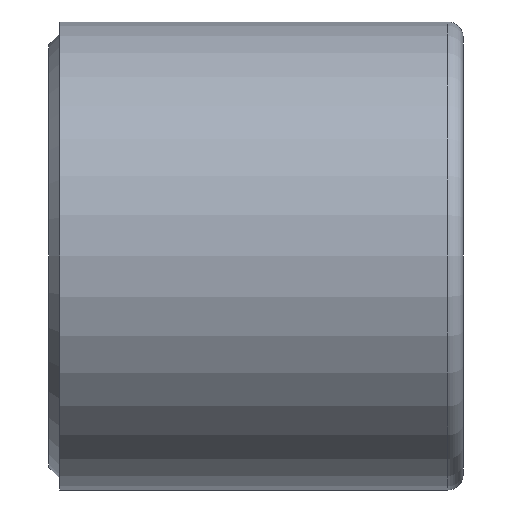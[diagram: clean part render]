
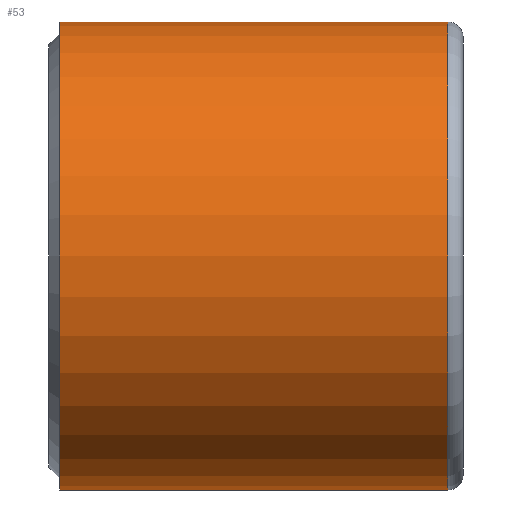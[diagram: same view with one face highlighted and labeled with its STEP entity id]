
A CAD part, front view. The second image highlights one B-rep face of the part: STEP entity #53.
In plain terms, the highlighted cylindrical face has radius 28.892 mm (diameter 57.785 mm), a partial arc.
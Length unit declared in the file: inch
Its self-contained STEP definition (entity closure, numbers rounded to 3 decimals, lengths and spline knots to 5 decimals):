
#3 = VERTEX_POINT ( 'NONE', #87 ) ;
#53 = ADVANCED_FACE ( 'NONE', ( #54 ), #925, .T. ) ;
#54 = FACE_OUTER_BOUND ( 'NONE', #763, .T. ) ;
#64 = EDGE_CURVE ( 'NONE', #462, #253, #797, .T. ) ;
#72 = ORIENTED_EDGE ( 'NONE', *, *, #915, .F. ) ;
#78 = ORIENTED_EDGE ( 'NONE', *, *, #465, .F. ) ;
#87 = CARTESIAN_POINT ( 'NONE',  ( 0.05274, 0., 1.1375 ) ) ;
#100 = CARTESIAN_POINT ( 'NONE',  ( 1.93924, 0., 1.1375 ) ) ;
#137 = VECTOR ( 'NONE', #767, 39.37008 ) ;
#180 = CARTESIAN_POINT ( 'NONE',  ( 0.05274, 0., -1.1375 ) ) ;
#207 = CARTESIAN_POINT ( 'NONE',  ( 0., 0., 0. ) ) ;
#232 = AXIS2_PLACEMENT_3D ( 'NONE', #563, #412, #696 ) ;
#253 = VERTEX_POINT ( 'NONE', #100 ) ;
#317 = DIRECTION ( 'NONE',  ( -1., 0., 0. ) ) ;
#412 = DIRECTION ( 'NONE',  ( -1., 0., 0. ) ) ;
#418 = CIRCLE ( 'NONE', #599, 1.1375 ) ;
#448 = ORIENTED_EDGE ( 'NONE', *, *, #64, .T. ) ;
#462 = VERTEX_POINT ( 'NONE', #849 ) ;
#465 = EDGE_CURVE ( 'NONE', #462, #513, #552, .T. ) ;
#475 = CARTESIAN_POINT ( 'NONE',  ( 0., 0., 1.1375 ) ) ;
#485 = DIRECTION ( 'NONE',  ( 0., 0., 1. ) ) ;
#513 = VERTEX_POINT ( 'NONE', #180 ) ;
#518 = DIRECTION ( 'NONE',  ( -1., 0., 0. ) ) ;
#547 = LINE ( 'NONE', #475, #137 ) ;
#552 = LINE ( 'NONE', #611, #875 ) ;
#563 = CARTESIAN_POINT ( 'NONE',  ( 1.93924, 0., 0. ) ) ;
#599 = AXIS2_PLACEMENT_3D ( 'NONE', #653, #518, #941 ) ;
#611 = CARTESIAN_POINT ( 'NONE',  ( 0., 0., -1.1375 ) ) ;
#619 = EDGE_CURVE ( 'NONE', #253, #3, #547, .T. ) ;
#626 = DIRECTION ( 'NONE',  ( -1., 0., 0. ) ) ;
#653 = CARTESIAN_POINT ( 'NONE',  ( 0.05274, 0., 0. ) ) ;
#696 = DIRECTION ( 'NONE',  ( 0., 0., 1. ) ) ;
#763 = EDGE_LOOP ( 'NONE', ( #78, #448, #881, #72 ) ) ;
#767 = DIRECTION ( 'NONE',  ( -1., 0., 0. ) ) ;
#797 = CIRCLE ( 'NONE', #232, 1.1375 ) ;
#849 = CARTESIAN_POINT ( 'NONE',  ( 1.93924, 0., -1.1375 ) ) ;
#875 = VECTOR ( 'NONE', #317, 39.37008 ) ;
#881 = ORIENTED_EDGE ( 'NONE', *, *, #619, .T. ) ;
#915 = EDGE_CURVE ( 'NONE', #513, #3, #418, .T. ) ;
#925 = CYLINDRICAL_SURFACE ( 'NONE', #949, 1.1375 ) ;
#941 = DIRECTION ( 'NONE',  ( 0., 0., 1. ) ) ;
#949 = AXIS2_PLACEMENT_3D ( 'NONE', #207, #626, #485 ) ;
